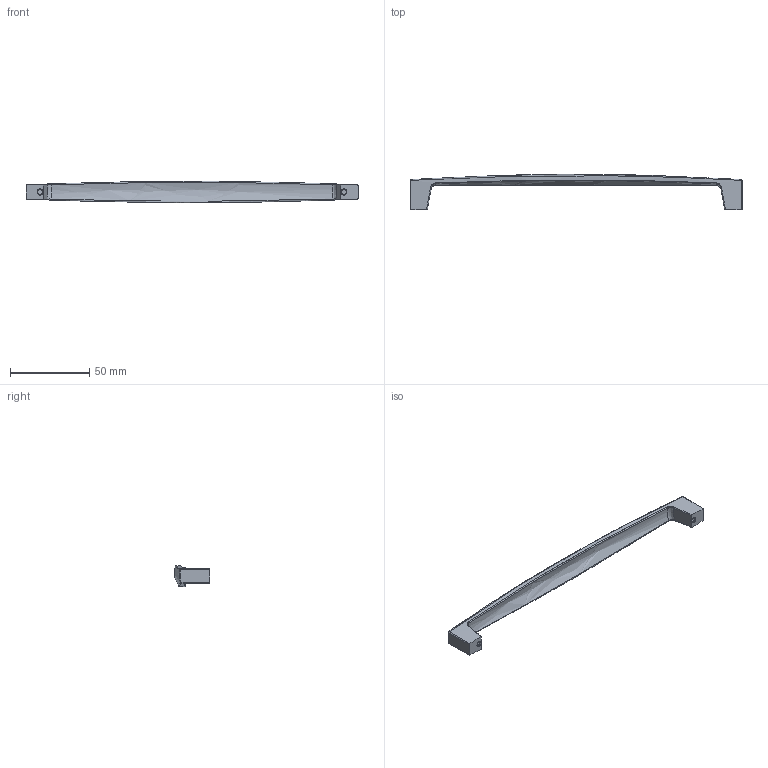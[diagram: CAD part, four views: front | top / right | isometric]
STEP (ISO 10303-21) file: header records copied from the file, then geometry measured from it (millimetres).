
FILE_DESCRIPTION(/* description */ (''),/* implementation_level */ '2;1');
FILE_NAME(/* name */ 'D:\$Workingspace\Designs\Meblowka\uchwyty\UZ-TIVOL-192-..stp',/* time_stamp */ '2019-09-19T13:34:00+02:00',/* author */ ('tomaszw'),/* organization */ (''),/* preprocessor_version */ 'ST-DEVELOPER v17.2',/* originating_system */ 'Autodesk Inventor 2019',/* authorisation */ '');
FILE_SCHEMA (('AUTOMOTIVE_DESIGN { 1 0 10303 214 3 1 1 }'));
Length unit declared in the file: millimetre
Products named in the file (1): UZ-TIVOL-...-..
Bounding box: 210 x 22.17 x 13.42 mm (x, y, z)
Volume: 12727.8 mm3; surface area: 8268.4 mm2
Topology: 1 solids, 1 shells, 42 faces, 98 edges, 60 vertices
Faces by surface type: bspline 18, cylinder 10, plane 8, sphere 4, cone 2
Full cylindrical faces by diameter (mm): 3.242 x2, 3.9 x2
Entity records: 1853 total; most frequent: CARTESIAN_POINT 927, ORIENTED_EDGE 192, DIRECTION 168, EDGE_CURVE 96, AXIS2_PLACEMENT_3D 75, VERTEX_POINT 60, EDGE_LOOP 46, FACE_OUTER_BOUND 42
